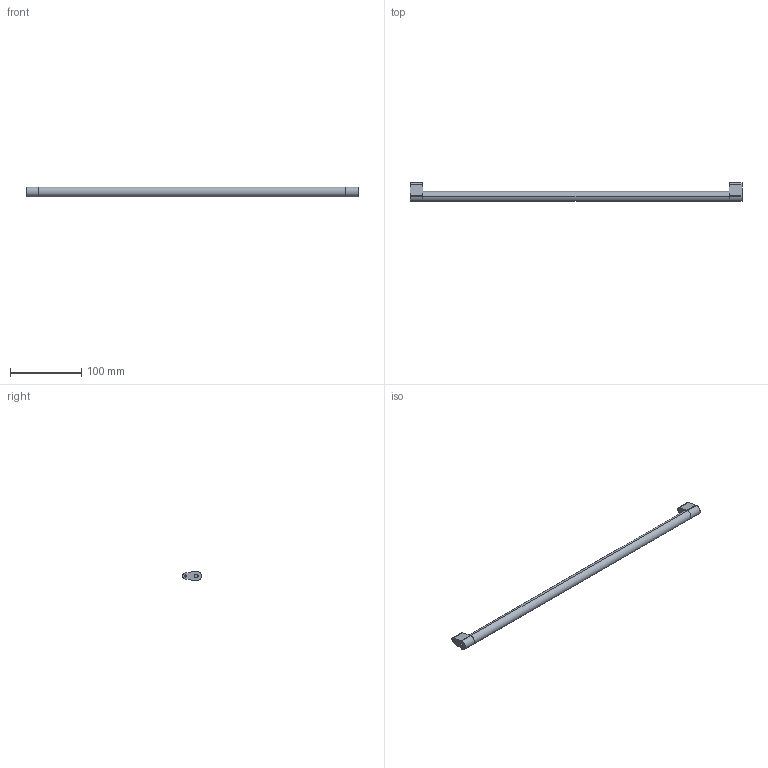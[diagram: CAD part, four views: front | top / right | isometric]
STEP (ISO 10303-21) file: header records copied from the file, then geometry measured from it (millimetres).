
FILE_DESCRIPTION (( 'STEP AP214' ), '1' );
FILE_NAME ('_Synchronisationseinheit Nova Pro KAB550_S16.step', '2010-07-08T13:58:29', ( 'grass' ), ( '' ), 'SwSTEP 2.0', 'SolidWorks 2010', '' );
FILE_SCHEMA (( 'AUTOMOTIVE_DESIGN' ));
Length unit declared in the file: millimetre
Products named in the file (1): _Synchronisationseinheit Nova Pro KAB550_S16
Bounding box: 465 x 26.5 x 14 mm (x, y, z)
Volume: 75268 mm3; surface area: 23298.7 mm2
Topology: 3 solids, 3 shells, 36 faces, 78 edges, 52 vertices
Faces by surface type: cylinder 18, plane 18
Entity records: 1050 total; most frequent: DIRECTION 188, CARTESIAN_POINT 167, ORIENTED_EDGE 156, EDGE_CURVE 78, AXIS2_PLACEMENT_3D 73, VERTEX_POINT 52, LINE 42, VECTOR 42
